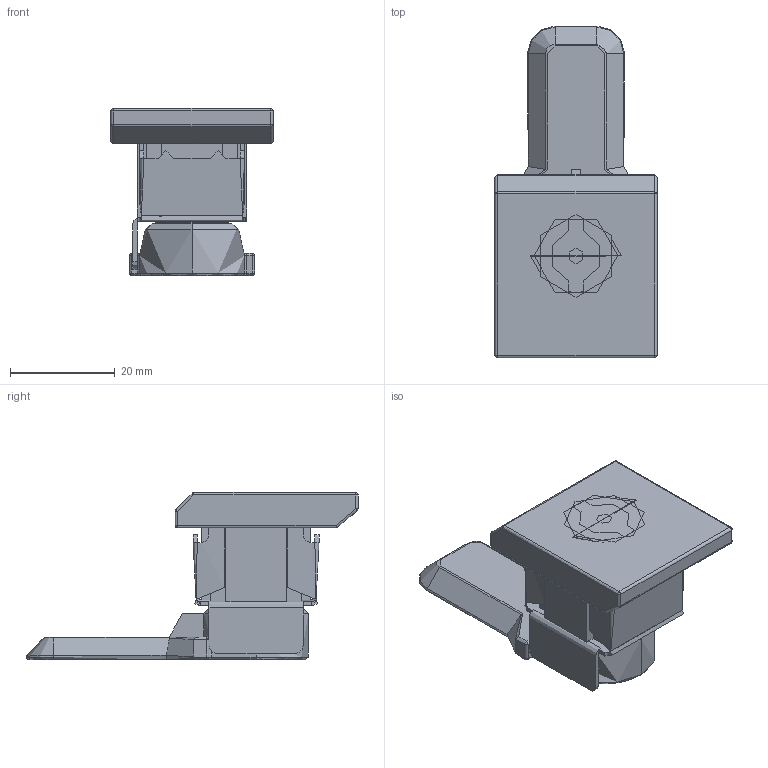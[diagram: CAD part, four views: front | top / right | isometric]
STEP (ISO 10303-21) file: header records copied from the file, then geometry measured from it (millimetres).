
FILE_DESCRIPTION (( 'STEP AP214' ), '1' );
FILE_NAME ('CUYUE.MS813-B.STEP', '2026-06-18T05:47:42', ( '' ), ( '' ), 'SwSTEP 2.0', 'SolidWorks 2020', '' );
FILE_SCHEMA (( 'AUTOMOTIVE_DESIGN' ));
Length unit declared in the file: millimetre
Products named in the file (6): SUOXIN-SY; PRT0002; CUYUE.MS813-B; JIAJIEJIAN; SUPPRESS-PANEL; HOUSING
Assembly tree (5 placements, depth 2):
  CUYUE.MS813-B
    PRT0002
    SUPPRESS-PANEL
    SUOXIN-SY
    JIAJIEJIAN
    HOUSING
Bounding box: 31 x 63.5 x 32 mm (x, y, z)
Topology: 4 solids, 13 shells, 382 faces, 935 edges, 559 vertices
Faces by surface type: plane 171, cylinder 138, bspline 59, cone 14
Full cylindrical faces by diameter (mm): 1.5 x4
Entity records: 18801 total; most frequent: CARTESIAN_POINT 5847, ORIENTED_EDGE 1806, DIRECTION 1696, EDGE_CURVE 913, AXIS2_PLACEMENT_3D 574, VERTEX_POINT 563, LINE 548, VECTOR 548
